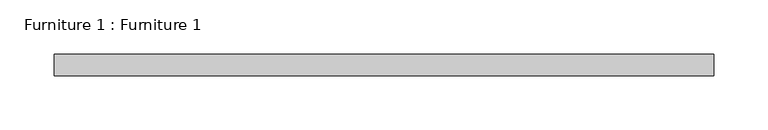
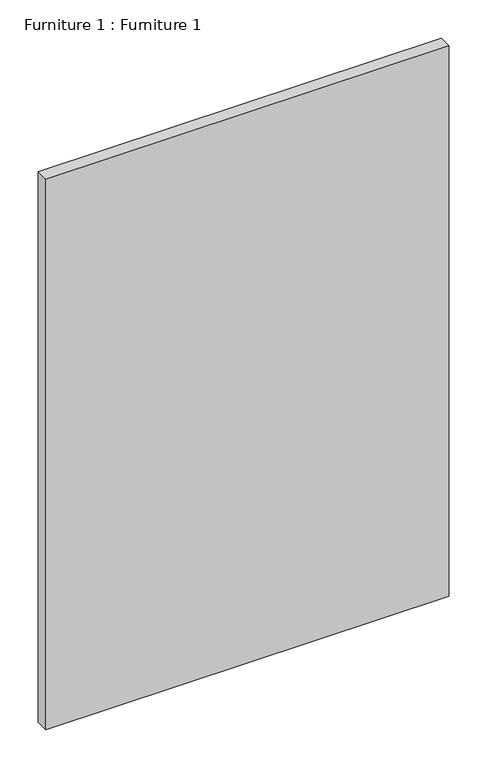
"""IFC4 building model written with IfcOpenShell, lengths in millimetres: furniture geometry, Furniture 1 : Furniture 1."""

from ifc_helpers import new_model, si_unit, frame, origin, place, context, project, spatial, polyline, outline, extrude, source, transform, mapped, element, save


def furniture_1_furniture_1_68b312d4(model_context):
    return source(origin(), model_context, "Body", "SweptSolid", [
        extrude(outline(polyline([(-6989.8907109, 0.1275048), (-7599.8907109, 0.1275048), (-7599.8907109, 20.1275048), (-6989.8907109, 20.1275048), (-6989.8907109, 0.1275048)])), frame((0.0, 0.0, 7675.4534308), z_axis=(0.0, 0.0, 1.0), x_axis=(1.0, 0.0, 0.0)), (0.0, 0.0, 1.0), 880.0),
    ])


if __name__ == "__main__":
    model = new_model("IFC4")
    model_context = context("Model", 3, world=origin())
    ifc_project = project(units=[si_unit("LENGTHUNIT", "METRE", prefix="MILLI")], contexts=[model_context])
    site = spatial("IfcSite", under=ifc_project)
    building = spatial("IfcBuilding", under=site)
    placement = place(None, origin())
    furniture_1_furniture_1_shape = furniture_1_furniture_1_68b312d4(model_context)
    element("IfcFurniture", 1, ObjectType="Furniture 1 : Furniture 1", at=placement, inside=building, context=model_context, shape_type="MappedRepresentation", body=[
        mapped(furniture_1_furniture_1_shape, transform((0.0, 0.0, 0.0), x_axis=(1.0, 0.0, 0.0), y_axis=(0.0, 1.0, 0.0), z_axis=(0.0, 0.0, 1.0))),
    ])
    save(model, "model.ifc")
